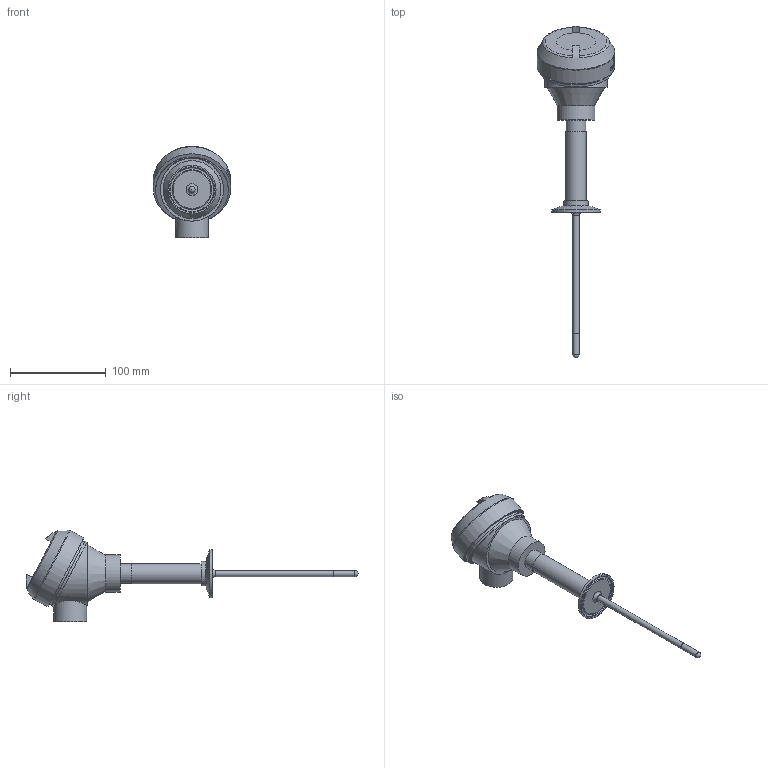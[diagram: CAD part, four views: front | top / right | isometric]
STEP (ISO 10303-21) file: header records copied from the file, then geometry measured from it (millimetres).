
FILE_DESCRIPTION(/* description */ (''),/* implementation_level */ '2;1');
FILE_NAME(/* name */ 'P:\3D Drawings\Sanitary-1.5in-Triclamp\Sanitary-1.5in-Triclamp-STP\Sanitary-1-5in-Triclamp-STP.stp',/* time_stamp */ '2015-11-11T13:14:55-08:00',/* author */ ('charles'),/* organization */ (''),/* preprocessor_version */ 'ST-DEVELOPER v15.2',/* originating_system */ 'Autodesk Inventor 2014',/* authorisation */ '');
FILE_SCHEMA (('AUTOMOTIVE_DESIGN { 1 0 10303 214 3 1 1 }'));
Length unit declared in the file: inch
Products named in the file (1): Sanitary-1-5in-Triclamp
Bounding box: 81.35 x 347.54 x 95.43 mm (x, y, z)
Volume: 308482.3 mm3; surface area: 51912.4 mm2
Topology: 1 solids, 2 shells, 300 faces, 780 edges, 519 vertices
Faces by surface type: plane 153, bspline 87, cylinder 43, torus 8, cone 8, sphere 1
Full cylindrical faces by diameter (mm): 6.02 x1, 6.35 x1, 10.998 x1, 13.741 x1, 14.986 x1, 15.291 x1, 18.644 x2, 20.647 x1, 21.082 x1, 25.4 x1, 34.544 x1, 39.554 x1, 40.64 x1, 50.394 x1, 65.923 x1, 73.66 x1, 76.2 x1, 81.345 x1
Entity records: 31913 total; most frequent: CARTESIAN_POINT 25193, ORIENTED_EDGE 1468, DIRECTION 990, EDGE_CURVE 734, VERTEX_POINT 507, EDGE_LOOP 369, AXIS2_PLACEMENT_3D 351, B_SPLINE_CURVE_WITH_KNOTS 308
